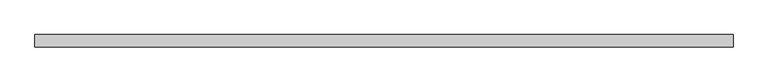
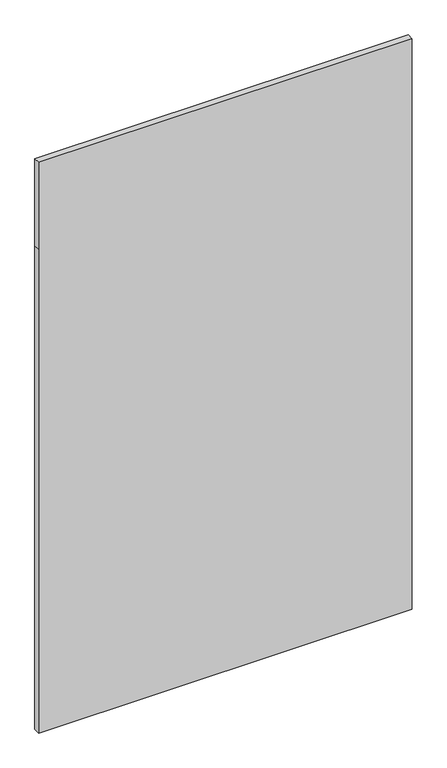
"""IFC4 building model written with IfcOpenShell, lengths in millimetres: plate geometry, Systémový panel : Zasklené."""

from ifc_helpers import new_model, si_unit, frame, origin, place, context, project, spatial, polyline, outline, extrude, source, transform, mapped, element, save


def plate_9c89f185(model_context):
    return source(origin(), model_context, "Body", "SweptSolid", [
        extrude(outline(polyline([(0.0, -712.5), (0.0, 712.5), (1950.0, 712.5), (2300.0, 712.5), (2300.0, -712.5), (1950.0, -712.5), (0.0, -712.5)])), frame((0.0, -49.5, 0.0), z_axis=(0.0, 1.0, 0.0), x_axis=(0.0, 0.0, 1.0)), (0.0, 0.0, 1.0), 25.0),
    ])


if __name__ == "__main__":
    model = new_model("IFC4")
    model_context = context("Model", 3, world=origin())
    ifc_project = project(units=[si_unit("LENGTHUNIT", "METRE", prefix="MILLI")], contexts=[model_context])
    site = spatial("IfcSite", under=ifc_project)
    building = spatial("IfcBuilding", under=site)
    placement = place(None, origin())
    plate_shape = plate_9c89f185(model_context)
    element("IfcPlate", 1, ObjectType="Systémový panel : Zasklené", at=placement, inside=building, context=model_context, shape_type="MappedRepresentation", body=[
        mapped(plate_shape, transform((0.0, 0.0, 0.0), x_axis=(1.0, 0.0, 0.0), y_axis=(0.0, 1.0, 0.0), z_axis=(0.0, 0.0, 1.0))),
    ])
    save(model, "model.ifc")
